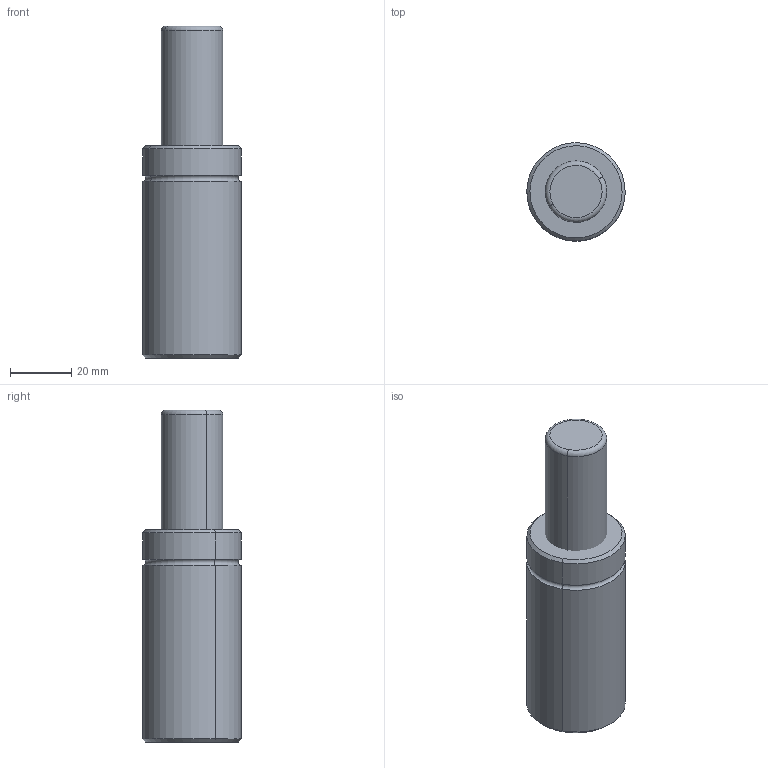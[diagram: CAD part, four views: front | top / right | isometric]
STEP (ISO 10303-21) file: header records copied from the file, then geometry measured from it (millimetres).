
FILE_DESCRIPTION(('CATIA V5 STEP Exchange'),'2;1');
FILE_NAME('W:\CATALOGO GENERAL 2018\FICHEROS CAD\003-TPH\TPH 470\TPH 470x38.stp','2017-11-30T15:49:05+00:00',('none'),('none'),'CATIA Version 5 Release 17 (IN-10)','CATIA V5 STEP AP203','none');
FILE_SCHEMA(('CONFIG_CONTROL_DESIGN'));
Length unit declared in the file: millimetre
Products named in the file (1): TPH 470x38
Bounding box: 31.99 x 31.99 x 108 mm (x, y, z)
Volume: 72490.4 mm3; surface area: 12569.6 mm2
Topology: 2 solids, 2 shells, 18 faces, 32 edges, 18 vertices
Faces by surface type: cylinder 6, cone 4, torus 4, plane 4
Entity records: 416 total; most frequent: ORIENTED_EDGE 64, CARTESIAN_POINT 61, DIRECTION 52, AXIS2_PLACEMENT_3D 33, EDGE_CURVE 32, CIRCLE 22, ADVANCED_FACE 18, EDGE_LOOP 18
